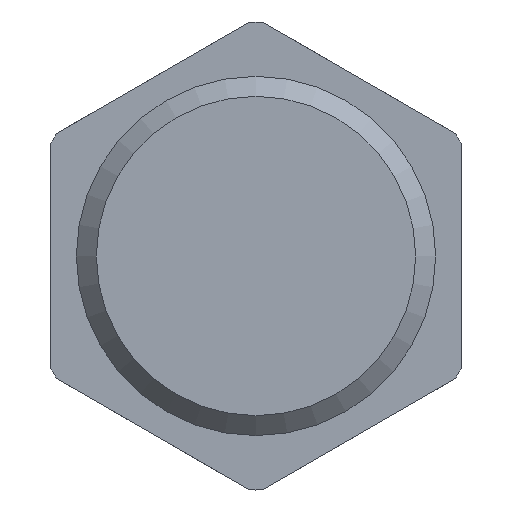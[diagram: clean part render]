
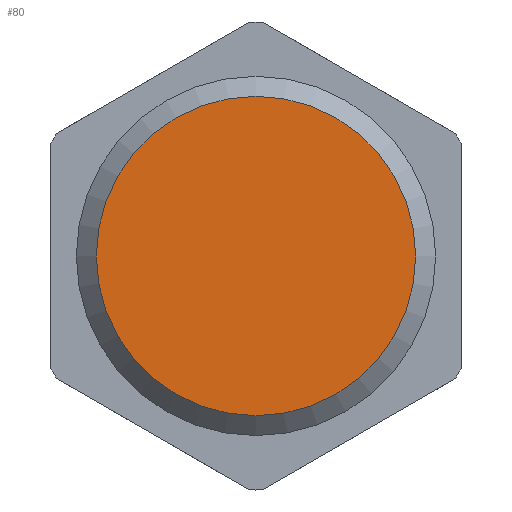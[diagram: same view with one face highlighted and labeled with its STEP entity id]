
A CAD part, front view. The second image highlights one B-rep face of the part: STEP entity #80.
In plain terms, the highlighted planar face has unit normal (0, -1, 0).
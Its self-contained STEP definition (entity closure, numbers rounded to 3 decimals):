
#80 = ADVANCED_FACE( '', ( #168 ), #169, .F. );
#168 = FACE_OUTER_BOUND( '', #292, .T. );
#169 = PLANE( '', #293 );
#292 = EDGE_LOOP( '', ( #443 ) );
#293 = AXIS2_PLACEMENT_3D( '', #444, #445, #446 );
#443 = ORIENTED_EDGE( '', *, *, #561, .T. );
#444 = CARTESIAN_POINT( '', ( 9.316, 0., 0. ) );
#445 = DIRECTION( '', ( 0., 1., 0. ) );
#446 = DIRECTION( '', ( 0., 0., 1. ) );
#561 = EDGE_CURVE( '', #662, #662, #663, .T. );
#662 = VERTEX_POINT( '', #846 );
#663 = CIRCLE( '', #847, 9.316 );
#846 = CARTESIAN_POINT( '', ( 0., 0., -9.316 ) );
#847 = AXIS2_PLACEMENT_3D( '', #940, #941, #942 );
#940 = CARTESIAN_POINT( '', ( 0., 0., 0. ) );
#941 = DIRECTION( '', ( 0., -1., 0. ) );
#942 = DIRECTION( '', ( 0., 0., -1. ) );
